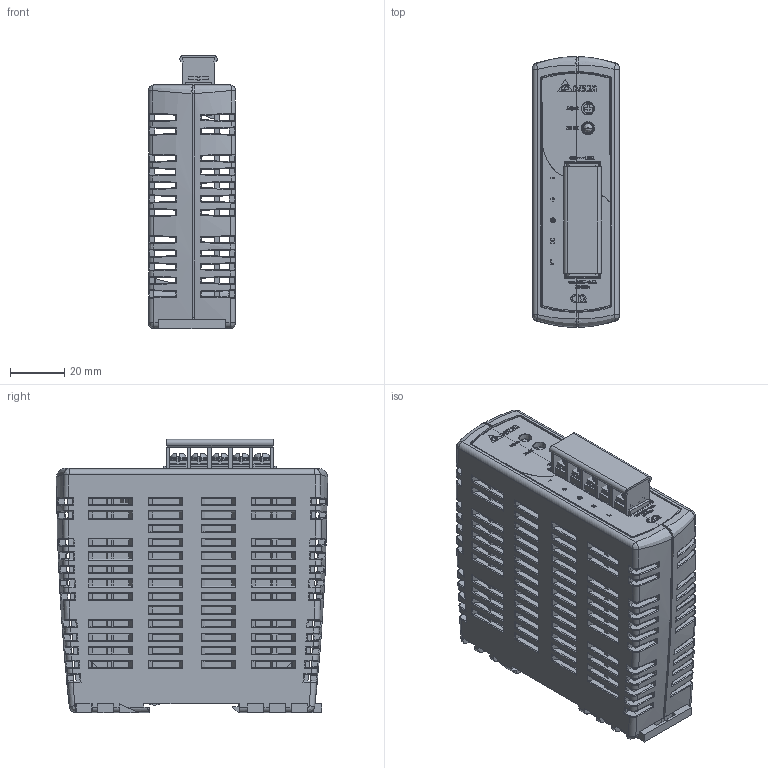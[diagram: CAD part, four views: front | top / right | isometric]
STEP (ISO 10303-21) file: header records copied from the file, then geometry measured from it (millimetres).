
FILE_DESCRIPTION((''),'2;1');
FILE_NAME('DRP012V015W1AZ_ASM','2012-04-20T',('Manop.Pr'),(''),'PRO/ENGINEER BY PARAMETRIC TECHNOLOGY CORPORATION, 2010180','PRO/ENGINEER BY PARAMETRIC TECHNOLOGY CORPORATION, 2010180','');
FILE_SCHEMA(('CONFIG_CONTROL_DESIGN','SHAPE_APPEARANCE_LAYERS_GROUPS'));
Products named in the file (15): 331040250102_CHASSIS; 331040240101_COVER; 342102650202; 326253300101; 326811400000; 2958035903_PWB; 3076677546_A_BODY; 3076677546_A_COVER; 3076677546_A_SCREW; 3076677546_ASM; EE_LED; EE_VR; ASSY_PWB_ASM; 3109010800; DRP012V015W1AZ_ASM
Assembly tree (19 placements, depth 4):
  DRP012V015W1AZ_ASM
    331040250102_CHASSIS
    331040240101_COVER
    342102650202
    326253300101
    326811400000
    ASSY_PWB_ASM
      2958035903_PWB
      3076677546_ASM
        3076677546_A_BODY
        3076677546_A_COVER
        3076677546_A_SCREW  x5
      EE_LED
      EE_VR
    3109010800  x2
Bounding box: 32 x 99.98 x 100.62 mm (x, y, z)
Volume: 72009.8 mm3; surface area: 94351.8 mm2
Topology: 17 solids, 19 shells, 3976 faces, 11036 edges, 7112 vertices
Faces by surface type: plane 2322, cylinder 724, bspline 408, extrusion 325, cone 119, torus 78
Entity records: 158179 total; most frequent: CARTESIAN_POINT 43459, ORIENTED_EDGE 19520, DIRECTION 13916, PRESENTATION_STYLE_ASSIGNMENT 9854, STYLED_ITEM 9772, CURVE_STYLE 9760, EDGE_CURVE 9760, VECTOR 6496
